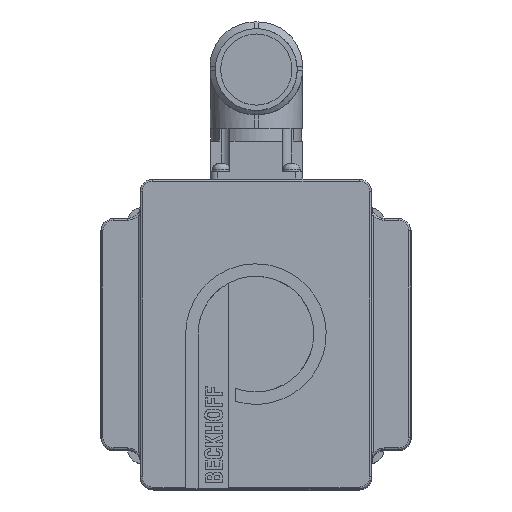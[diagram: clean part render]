
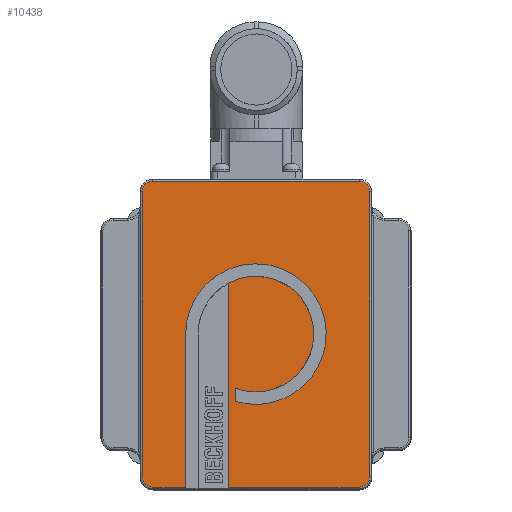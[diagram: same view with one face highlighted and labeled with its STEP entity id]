
A CAD part, top view. The second image highlights one B-rep face of the part: STEP entity #10438.
In plain terms, the highlighted planar face has unit normal (0, 0, 1).
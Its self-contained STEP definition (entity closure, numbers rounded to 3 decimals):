
#714=PLANE('',#11263);
#1197=FACE_OUTER_BOUND('',#1803,.T.);
#1803=EDGE_LOOP('',(#8489,#8490,#8491,#8492,#8493,#8494,#8495,#8496,#8497,
#8498,#8499,#8500,#8501,#8502));
#2536=LINE('',#18010,#3395);
#2543=LINE('',#18028,#3402);
#2545=LINE('',#18036,#3404);
#2547=LINE('',#18042,#3406);
#2572=LINE('',#18373,#3431);
#2575=LINE('',#18388,#3434);
#2577=LINE('',#18399,#3436);
#2579=LINE('',#18408,#3438);
#3395=VECTOR('',#13107,10.);
#3402=VECTOR('',#13122,10.);
#3404=VECTOR('',#13132,10.);
#3406=VECTOR('',#13140,10.);
#3431=VECTOR('',#13275,10.);
#3434=VECTOR('',#13292,10.);
#3436=VECTOR('',#13306,10.);
#3438=VECTOR('',#13318,10.);
#3960=CIRCLE('',#11178,16.25);
#3961=CIRCLE('',#11181,19.75);
#3999=CIRCLE('',#11242,3.);
#4003=CIRCLE('',#11248,3.);
#4007=CIRCLE('',#11254,3.);
#4009=CIRCLE('',#11258,3.);
#4753=VERTEX_POINT('',#18007);
#4754=VERTEX_POINT('',#18009);
#4760=VERTEX_POINT('',#18025);
#4761=VERTEX_POINT('',#18027);
#4762=VERTEX_POINT('',#18031);
#4763=VERTEX_POINT('',#18035);
#4764=VERTEX_POINT('',#18041);
#4806=VERTEX_POINT('',#18370);
#4807=VERTEX_POINT('',#18372);
#4809=VERTEX_POINT('',#18378);
#4811=VERTEX_POINT('',#18384);
#4813=VERTEX_POINT('',#18390);
#4814=VERTEX_POINT('',#18395);
#4816=VERTEX_POINT('',#18401);
#6002=EDGE_CURVE('',#4754,#4753,#2536,.T.);
#6011=EDGE_CURVE('',#4761,#4760,#2543,.T.);
#6013=EDGE_CURVE('',#4762,#4754,#3960,.T.);
#6015=EDGE_CURVE('',#4763,#4762,#2545,.T.);
#6017=EDGE_CURVE('',#4760,#4763,#3961,.T.);
#6018=EDGE_CURVE('',#4761,#4764,#2547,.T.);
#6085=EDGE_CURVE('',#4806,#4807,#2572,.T.);
#6090=EDGE_CURVE('',#4807,#4809,#3999,.T.);
#6093=EDGE_CURVE('',#4809,#4811,#2575,.T.);
#6096=EDGE_CURVE('',#4811,#4813,#4003,.T.);
#6099=EDGE_CURVE('',#4813,#4814,#2577,.T.);
#6102=EDGE_CURVE('',#4814,#4816,#4007,.T.);
#6104=EDGE_CURVE('',#4816,#4753,#2579,.T.);
#6106=EDGE_CURVE('',#4764,#4806,#4009,.T.);
#8489=ORIENTED_EDGE('',*,*,#6002,.T.);
#8490=ORIENTED_EDGE('',*,*,#6104,.F.);
#8491=ORIENTED_EDGE('',*,*,#6102,.F.);
#8492=ORIENTED_EDGE('',*,*,#6099,.F.);
#8493=ORIENTED_EDGE('',*,*,#6096,.F.);
#8494=ORIENTED_EDGE('',*,*,#6093,.F.);
#8495=ORIENTED_EDGE('',*,*,#6090,.F.);
#8496=ORIENTED_EDGE('',*,*,#6085,.F.);
#8497=ORIENTED_EDGE('',*,*,#6106,.F.);
#8498=ORIENTED_EDGE('',*,*,#6018,.F.);
#8499=ORIENTED_EDGE('',*,*,#6011,.T.);
#8500=ORIENTED_EDGE('',*,*,#6017,.T.);
#8501=ORIENTED_EDGE('',*,*,#6015,.T.);
#8502=ORIENTED_EDGE('',*,*,#6013,.T.);
#10438=ADVANCED_FACE('',(#1197),#714,.T.);
#11178=AXIS2_PLACEMENT_3D('',#18032,#13127,#13128);
#11181=AXIS2_PLACEMENT_3D('',#18039,#13136,#13137);
#11242=AXIS2_PLACEMENT_3D('',#18382,#13285,#13286);
#11248=AXIS2_PLACEMENT_3D('',#18393,#13299,#13300);
#11254=AXIS2_PLACEMENT_3D('',#18405,#13313,#13314);
#11258=AXIS2_PLACEMENT_3D('',#18411,#13323,#13324);
#11263=AXIS2_PLACEMENT_3D('',#18422,#13338,#13339);
#13107=DIRECTION('',(0.,-1.,0.));
#13122=DIRECTION('',(0.,1.,0.));
#13127=DIRECTION('center_axis',(0.,0.,
1.));
#13128=DIRECTION('ref_axis',(0.354,0.935,0.));
#13132=DIRECTION('',(0.,1.,0.));
#13136=DIRECTION('center_axis',(0.,0.,
-1.));
#13137=DIRECTION('ref_axis',(-0.291,-0.957,0.));
#13140=DIRECTION('',(-1.,0.,0.));
#13275=DIRECTION('',(0.,1.,0.));
#13285=DIRECTION('center_axis',(0.,0.,
-1.));
#13286=DIRECTION('ref_axis',(-0.707,0.707,0.));
#13292=DIRECTION('',(1.,0.,0.));
#13299=DIRECTION('center_axis',(0.,0.,
-1.));
#13300=DIRECTION('ref_axis',(0.707,0.707,0.));
#13306=DIRECTION('',(0.,-1.,0.));
#13313=DIRECTION('center_axis',(0.,0.,
-1.));
#13314=DIRECTION('ref_axis',(0.707,-0.707,0.));
#13318=DIRECTION('',(-1.,0.,0.));
#13323=DIRECTION('center_axis',(0.,0.,
-1.));
#13324=DIRECTION('ref_axis',(-0.707,-0.707,0.));
#13338=DIRECTION('center_axis',(0.,0.,
1.));
#13339=DIRECTION('ref_axis',(1.,0.,0.));
#18007=CARTESIAN_POINT('',(-7.75,-43.,241.3));
#18009=CARTESIAN_POINT('',(-7.75,14.283,241.3));
#18010=CARTESIAN_POINT('',(-7.75,-22.905,241.3));
#18025=CARTESIAN_POINT('',(-19.75,0.,241.3));
#18027=CARTESIAN_POINT('',(-19.75,-43.,241.3));
#18028=CARTESIAN_POINT('',(-19.75,0.,241.3));
#18031=CARTESIAN_POINT('',(-5.75,-15.199,241.3));
#18032=CARTESIAN_POINT('Origin',(0.,0.,
241.3));
#18035=CARTESIAN_POINT('',(-5.75,-18.894,241.3));
#18036=CARTESIAN_POINT('',(-5.75,-7.599,241.3));
#18039=CARTESIAN_POINT('Origin',(0.,0.,
241.3));
#18041=CARTESIAN_POINT('',(-29.,-43.,241.3));
#18042=CARTESIAN_POINT('',(16.25,-43.,241.3));
#18370=CARTESIAN_POINT('',(-32.,-40.,241.3));
#18372=CARTESIAN_POINT('',(-32.,40.,241.3));
#18373=CARTESIAN_POINT('',(-32.,18.,241.3));
#18378=CARTESIAN_POINT('',(-29.,43.,241.3));
#18382=CARTESIAN_POINT('Origin',(-29.,40.,241.3));
#18384=CARTESIAN_POINT('',(29.,43.,241.3));
#18388=CARTESIAN_POINT('',(-16.25,43.,241.3));
#18390=CARTESIAN_POINT('',(32.,40.,241.3));
#18393=CARTESIAN_POINT('Origin',(29.,40.,241.3));
#18395=CARTESIAN_POINT('',(32.,-40.,241.3));
#18399=CARTESIAN_POINT('',(32.,21.75,241.3));
#18401=CARTESIAN_POINT('',(29.,-43.,241.3));
#18405=CARTESIAN_POINT('Origin',(29.,-40.,241.3));
#18408=CARTESIAN_POINT('',(16.25,-43.,241.3));
#18411=CARTESIAN_POINT('Origin',(-29.,-40.,241.3));
#18422=CARTESIAN_POINT('Origin',(0.,0.,
241.3));
